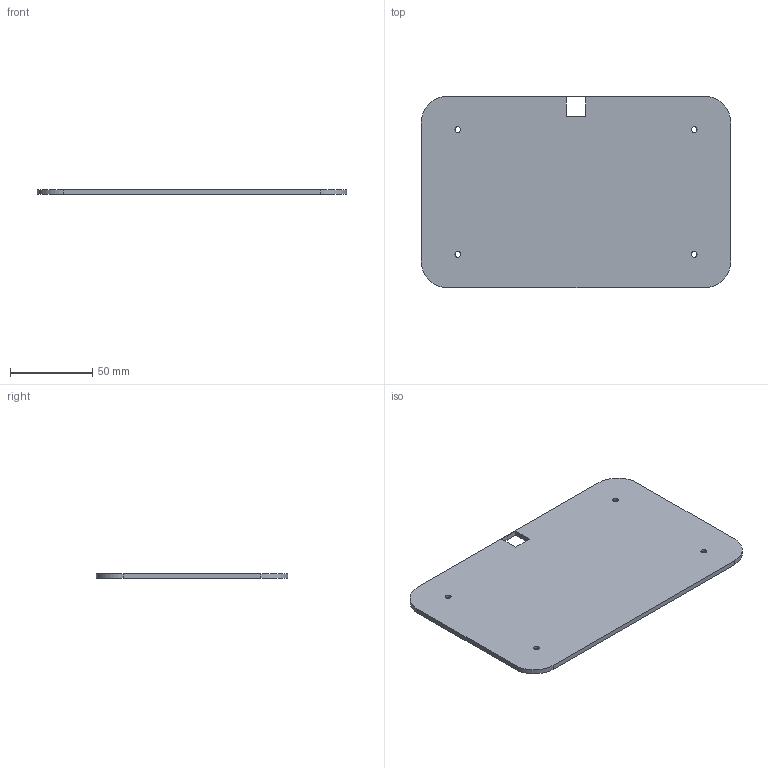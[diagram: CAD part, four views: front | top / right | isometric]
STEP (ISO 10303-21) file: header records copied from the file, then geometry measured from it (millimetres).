
FILE_DESCRIPTION(('Open CASCADE Model'),'2;1');
FILE_NAME('Open CASCADE Shape Model','2026-10-16T13:31:54',('Author'),( 'Open CASCADE'),'Open CASCADE STEP processor 7.9','Open CASCADE 7.9' ,'Unknown');
FILE_SCHEMA(('AUTOMOTIVE_DESIGN { 1 0 10303 214 1 1 1 1 }'));
Length unit declared in the file: millimetre
Products named in the file (1): Open CASCADE STEP translator 7.9 2
Bounding box: 188.6 x 116.6 x 3 mm (x, y, z)
Volume: 64259.5 mm3; surface area: 45375.2 mm2
Topology: 1 solids, 1 shells, 34 faces, 72 edges, 48 vertices
Faces by surface type: plane 18, cylinder 16
Full cylindrical faces by diameter (mm): 3.4 x4, 6.4 x4, 10.4 x4
Entity records: 1912 total; most frequent: CARTESIAN_POINT 335, DIRECTION 312, LINE 152, VECTOR 152, ORIENTED_EDGE 144, PCURVE 144, DEFINITIONAL_REPRESENTATION 144, EDGE_CURVE 72
